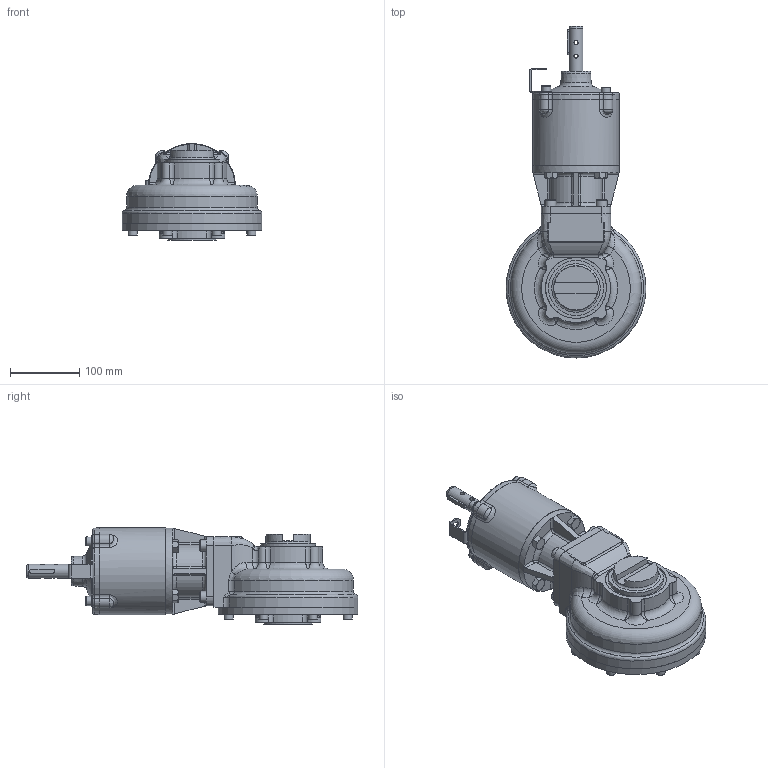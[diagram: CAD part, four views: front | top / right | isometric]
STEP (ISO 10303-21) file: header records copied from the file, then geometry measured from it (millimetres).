
FILE_DESCRIPTION( ( 'Unknown' ), '1' );
FILE_NAME( 'X:/CURRENT/PUB/Hob/HOB-2014/HOB-MPR/HOB-MPR-STP_FILES/PUB-HOB4MPR4-8.4-PAD-F10.stp', 'Unknown', ( 'Unknown' ), ( 'Unknown' ), 'PSStep 16.0.42', 'Unknown', ' ' );
FILE_SCHEMA( ( 'AUTOMOTIVE_DESIGN { 1 0 10303 214 1 1 1 1 }' ) );
Length unit declared in the file: millimetre
Products named in the file (33): 1; 2; 3; 4; 5; 6; 7; 8; 9; 10; 11; 12; 13; 14; 15; 16; 17; 18; 19; trelleborg_trea00200-n7mm_b5c67wtxxcj74kwnwb2box077_01; 20; 21; 22; 23; 24; 25; 26; 27; 28; 29; 30; 31; 32
Bounding box: 202 x 479.52 x 139.83 mm (x, y, z)
Surface area: 597383.7 mm2 (no closed solid volume)
Topology: 0 solids, 2000 shells, 2001 faces, 9913 edges, 9538 vertices
Faces by surface type: cylinder 776, plane 621, cone 302, torus 159, bspline 127, sphere 16
Full cylindrical faces by diameter (mm): 6 x2, 6.647 x8, 6.8 x8, 8 x12, 8.25 x2, 8.376 x8, 8.5 x20, 10 x8, 10.5 x8, 12 x1, 13 x8, 13.27 x4, 16 x4, 19 x1, 20 x4, 22 x1, 22.098 x1, 23 x1, 25 x1, 28 x2, 29 x1, 29.583 x1, 30 x4, 35.105 x1, 51.5 x1, 54.88 x2, 54.95 x2, 55 x2, 55.05 x2, 59.7 x1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
Entity records: 152378 total; most frequent: CARTESIAN_POINT 63721, DIRECTION 15904, VERTEX_POINT 9418, ORIENTED_EDGE 9392, EDGE_CURVE 9392, AXIS2_PLACEMENT_3D 6016, CIRCLE 4082, LINE 3872
